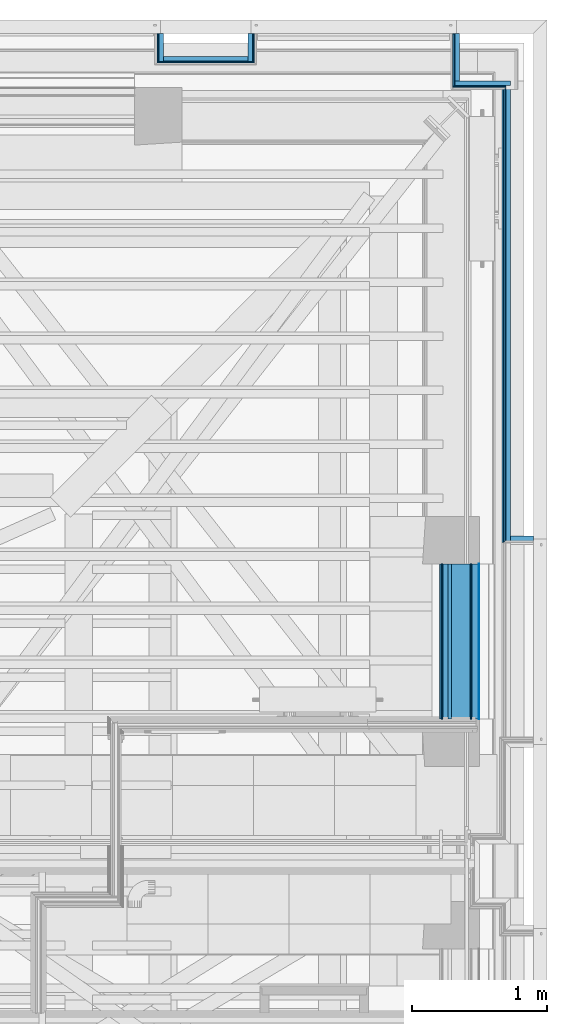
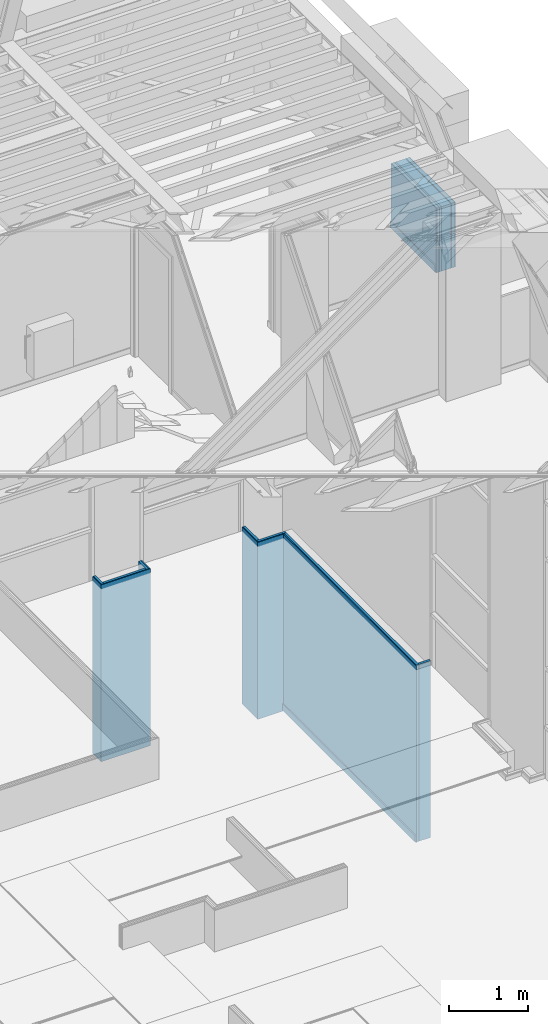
# One storey, part 62 of 183: 22 building element parts, 8 elements without a shape of their own.
"""IFC2X3 building model written with IfcOpenShell, lengths in metres."""

from ifc_helpers import new_model, entity, si_unit, converted_unit, derived_unit, money_unit, direction, frame, frame_2d, origin_with_axes, place, context, subcontext, project, spatial, polyline, rectangle, outline, extrude, material, type_object, element, aggregate, save


model = new_model("IFC2X3")

# Units and contexts
model_context = context("Model", 3, precision=1e-05, world=origin_with_axes(), true_north=direction((0.0, 1.0)))
body_context = subcontext(model_context, "Body", "Model", "MODEL_VIEW", scale=1.0)
ifc_project = project(units=[si_unit("LENGTHUNIT", "METRE"), si_unit("AREAUNIT", "SQUARE_METRE"), si_unit("VOLUMEUNIT", "CUBIC_METRE"), si_unit("ABSORBEDDOSEUNIT", "GRAY"), si_unit("AMOUNTOFSUBSTANCEUNIT", "MOLE"), si_unit("DOSEEQUIVALENTUNIT", "SIEVERT"), si_unit("ELECTRICCAPACITANCEUNIT", "FARAD"), si_unit("ELECTRICCHARGEUNIT", "COULOMB"), si_unit("ELECTRICCONDUCTANCEUNIT", "SIEMENS"), si_unit("ELECTRICCURRENTUNIT", "AMPERE"), si_unit("ELECTRICRESISTANCEUNIT", "OHM"), si_unit("ELECTRICVOLTAGEUNIT", "VOLT"), si_unit("ENERGYUNIT", "JOULE"), si_unit("FORCEUNIT", "NEWTON"), si_unit("FREQUENCYUNIT", "HERTZ"), si_unit("ILLUMINANCEUNIT", "LUX"), si_unit("INDUCTANCEUNIT", "HENRY"), si_unit("LUMINOUSFLUXUNIT", "LUMEN"), si_unit("LUMINOUSINTENSITYUNIT", "CANDELA"), si_unit("MAGNETICFLUXDENSITYUNIT", "TESLA"), si_unit("MAGNETICFLUXUNIT", "WEBER"), si_unit("MASSUNIT", "GRAM"), converted_unit("PLANEANGLEUNIT", "degree", entity("IfcReal", 0.0174532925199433), si_unit("PLANEANGLEUNIT", "RADIAN"), dimensions=[0, 0, 0, 0, 0, 0, 0]), si_unit("POWERUNIT", "WATT"), si_unit("PRESSUREUNIT", "PASCAL"), si_unit("RADIOACTIVITYUNIT", "BECQUEREL"), si_unit("SOLIDANGLEUNIT", "STERADIAN"), si_unit("THERMODYNAMICTEMPERATUREUNIT", "KELVIN"), si_unit("TIMEUNIT", "SECOND"), derived_unit("ACCELERATIONUNIT", [(si_unit("LENGTHUNIT", "METRE"), 1), (si_unit("TIMEUNIT", "SECOND"), -2)]), derived_unit("ANGULARVELOCITYUNIT", [(converted_unit("PLANEANGLEUNIT", "degree", entity("IfcReal", 0.0174532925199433), si_unit("PLANEANGLEUNIT", "RADIAN"), dimensions=[0, 0, 0, 0, 0, 0, 0]), 1), (si_unit("TIMEUNIT", "SECOND"), -1)]), derived_unit("CURVATUREUNIT", [(converted_unit("PLANEANGLEUNIT", "degree", entity("IfcReal", 0.0174532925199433), si_unit("PLANEANGLEUNIT", "RADIAN"), dimensions=[0, 0, 0, 0, 0, 0, 0]), 1), (si_unit("LENGTHUNIT", "METRE"), -1)]), derived_unit("DYNAMICVISCOSITYUNIT", [(si_unit("PRESSUREUNIT", "PASCAL"), 1), (si_unit("TIMEUNIT", "SECOND"), 1)]), derived_unit("HEATFLUXDENSITYUNIT", [(si_unit("POWERUNIT", "WATT"), 1), (si_unit("LENGTHUNIT", "METRE"), -2)]), derived_unit("HEATINGVALUEUNIT", [(si_unit("ENERGYUNIT", "JOULE"), 1), (si_unit("MASSUNIT", "GRAM"), -1)]), derived_unit("INTEGERCOUNTRATEUNIT", [(si_unit("TIMEUNIT", "SECOND"), -1)]), derived_unit("IONCONCENTRATIONUNIT", [(si_unit("MASSUNIT", "GRAM"), 1), (si_unit("VOLUMEUNIT", "CUBIC_METRE"), -1)]), derived_unit("ISOTHERMALMOISTURECAPACITYUNIT", [(si_unit("VOLUMEUNIT", "CUBIC_METRE"), 1), (si_unit("MASSUNIT", "GRAM"), -1)]), derived_unit("KINEMATICVISCOSITYUNIT", [(si_unit("AREAUNIT", "SQUARE_METRE"), 1), (si_unit("TIMEUNIT", "SECOND"), -1)]), derived_unit("LINEARFORCEUNIT", [(si_unit("FORCEUNIT", "NEWTON"), 1), (si_unit("LENGTHUNIT", "METRE"), -1)]), derived_unit("LINEARMOMENTUNIT", [(si_unit("FORCEUNIT", "NEWTON"), 1), (si_unit("LENGTHUNIT", "METRE"), -1)]), derived_unit("LINEARSTIFFNESSUNIT", [(si_unit("FORCEUNIT", "NEWTON"), 1), (si_unit("LENGTHUNIT", "METRE"), -1)]), derived_unit("LINEARVELOCITYUNIT", [(si_unit("LENGTHUNIT", "METRE"), 1), (si_unit("TIMEUNIT", "SECOND"), -1)]), derived_unit("LUMINOUSINTENSITYDISTRIBUTIONUNIT", [(si_unit("LUMINOUSINTENSITYUNIT", "CANDELA"), 1), (si_unit("LUMINOUSFLUXUNIT", "LUMEN"), -1)]), derived_unit("MASSDENSITYUNIT", [(si_unit("MASSUNIT", "GRAM"), 1), (si_unit("VOLUMEUNIT", "CUBIC_METRE"), -1)]), derived_unit("MASSFLOWRATEUNIT", [(si_unit("MASSUNIT", "GRAM"), 1), (si_unit("TIMEUNIT", "SECOND"), -1)]), derived_unit("MASSPERLENGTHUNIT", [(si_unit("MASSUNIT", "GRAM"), 1), (si_unit("LENGTHUNIT", "METRE"), -1)]), derived_unit("MODULUSOFELASTICITYUNIT", [(si_unit("FORCEUNIT", "NEWTON"), 1), (si_unit("AREAUNIT", "SQUARE_METRE"), -1)]), derived_unit("MODULUSOFLINEARSUBGRADEREACTIONUNIT", [(si_unit("FORCEUNIT", "NEWTON"), 1), (si_unit("LENGTHUNIT", "METRE"), -2)]), derived_unit("MODULUSOFROTATIONALSUBGRADEREACTIONUNIT", [(si_unit("FORCEUNIT", "NEWTON"), 1), (si_unit("LENGTHUNIT", "METRE"), 1)]), derived_unit("MODULUSOFSUBGRADEREACTIONUNIT", [(si_unit("FORCEUNIT", "NEWTON"), 1), (si_unit("VOLUMEUNIT", "CUBIC_METRE"), -1)]), derived_unit("MOISTUREDIFFUSIVITYUNIT", [(si_unit("VOLUMEUNIT", "CUBIC_METRE"), 1), (si_unit("TIMEUNIT", "SECOND"), -1)]), derived_unit("MOLECULARWEIGHTUNIT", [(si_unit("MASSUNIT", "GRAM"), 1), (si_unit("AMOUNTOFSUBSTANCEUNIT", "MOLE"), -1)]), derived_unit("PLANARFORCEUNIT", [(si_unit("FORCEUNIT", "NEWTON"), 1), (si_unit("LENGTHUNIT", "METRE"), -2)]), derived_unit("ROTATIONALFREQUENCYUNIT", [(si_unit("TIMEUNIT", "SECOND"), -1)]), derived_unit("ROTATIONALMASSUNIT", [(si_unit("MASSUNIT", "GRAM"), 1), (si_unit("LENGTHUNIT", "METRE"), 2)]), derived_unit("ROTATIONALSTIFFNESSUNIT", [(si_unit("FORCEUNIT", "NEWTON"), 1), (si_unit("LENGTHUNIT", "METRE"), 1), (converted_unit("PLANEANGLEUNIT", "degree", entity("IfcReal", 0.0174532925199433), si_unit("PLANEANGLEUNIT", "RADIAN"), dimensions=[0, 0, 0, 0, 0, 0, 0]), -1)]), derived_unit("SECTIONAREAINTEGRALUNIT", [(si_unit("LENGTHUNIT", "METRE"), 5)]), derived_unit("SECTIONMODULUSUNIT", [(si_unit("LENGTHUNIT", "METRE"), 3)]), derived_unit("SHEARMODULUSUNIT", [(si_unit("FORCEUNIT", "NEWTON"), 1), (si_unit("AREAUNIT", "SQUARE_METRE"), -1)]), derived_unit("SOUNDPOWERUNIT", [(si_unit("ENERGYUNIT", "JOULE"), 1), (si_unit("TIMEUNIT", "SECOND"), -1)]), derived_unit("SPECIFICHEATCAPACITYUNIT", [(si_unit("FORCEUNIT", "NEWTON"), 1), (si_unit("MASSUNIT", "GRAM"), -1), (si_unit("THERMODYNAMICTEMPERATUREUNIT", "KELVIN"), -1)]), derived_unit("TEMPERATUREGRADIENTUNIT", [(si_unit("THERMODYNAMICTEMPERATUREUNIT", "KELVIN"), 1), (si_unit("LENGTHUNIT", "METRE"), -1)]), derived_unit("THERMALADMITTANCEUNIT", [(si_unit("POWERUNIT", "WATT"), 1), (si_unit("AREAUNIT", "SQUARE_METRE"), -1), (si_unit("THERMODYNAMICTEMPERATUREUNIT", "KELVIN"), -1)]), derived_unit("THERMALCONDUCTANCEUNIT", [(si_unit("POWERUNIT", "WATT"), 1), (si_unit("LENGTHUNIT", "METRE"), -1), (si_unit("THERMODYNAMICTEMPERATUREUNIT", "KELVIN"), -1)]), derived_unit("THERMALEXPANSIONCOEFFICIENTUNIT", [(si_unit("THERMODYNAMICTEMPERATUREUNIT", "KELVIN"), -1)]), derived_unit("THERMALRESISTANCEUNIT", [(si_unit("AREAUNIT", "SQUARE_METRE"), 1), (si_unit("POWERUNIT", "WATT"), -1)]), derived_unit("THERMALTRANSMITTANCEUNIT", [(si_unit("POWERUNIT", "WATT"), 1), (si_unit("AREAUNIT", "SQUARE_METRE"), -1), (si_unit("THERMODYNAMICTEMPERATUREUNIT", "KELVIN"), -1)]), derived_unit("TORQUEUNIT", [(si_unit("FORCEUNIT", "NEWTON"), 1), (si_unit("LENGTHUNIT", "METRE"), 1)]), derived_unit("VAPORPERMEABILITYUNIT", [(si_unit("MASSUNIT", "GRAM"), 1), (si_unit("TIMEUNIT", "SECOND"), -1)]), derived_unit("VOLUMETRICFLOWRATEUNIT", [(si_unit("VOLUMEUNIT", "CUBIC_METRE"), 1), (si_unit("TIMEUNIT", "SECOND"), -1)]), derived_unit("WARPINGCONSTANTUNIT", [(si_unit("LENGTHUNIT", "METRE"), 6)]), derived_unit("WARPINGMOMENTUNIT", [(si_unit("FORCEUNIT", "NEWTON"), 1), (si_unit("LENGTHUNIT", "METRE"), 2)]), money_unit("GBP")], contexts=[model_context])

# Site, building, storey
site_placement = place(None, origin_with_axes())
site = spatial("IfcSite", under=ifc_project, at=site_placement, Name="Site", CompositionType="ELEMENT")
building_placement = place(site_placement, origin_with_axes())
building = spatial("IfcBuilding", under=site, at=building_placement, Name="Building01", CompositionType="ELEMENT")
storey_placement = place(building_placement, frame((0.0, 0.0, 5.15), z_axis=(0.0, 0.0, 1.0), x_axis=(1.0, 0.0, 0.0)))
storey = spatial("IfcBuildingStorey", under=building, at=storey_placement, Name="1F", CompositionType="ELEMENT", Elevation=5.15)

# Wall, building element part
wall_type_1 = type_object("IfcWallType", Name="SHE_A-Walls_Type06d_ExternalWallInsulation_48mm", PredefinedType="NOTDEFINED")
wall_1_placement = place(storey_placement, frame((26.71, 11.08018, 0.0), z_axis=(0.0, 0.0, 1.0), x_axis=(1.0, 0.0, 0.0)))
wall_1 = element("IfcWall", 1, at=wall_1_placement, inside=storey, type_object=wall_type_1, Name="6D", ObjectType="SHE_A-Walls_Type06d_ExternalWallInsulation_48mm")
ifc_material_1 = material(Name="A_BSUK_Insulation")
building_element_part_1_placement = place(wall_1_placement, origin_with_axes())
building_element_part_1 = element("IfcBuildingElementPart", 2, at=building_element_part_1_placement, material=ifc_material_1, Name="3", context=body_context, shape_type="SweptSolid", body=[
    extrude(rectangle(XDim=0.036, YDim=0.17, at=frame_2d((0.085, -0.018), x_axis=(0.0, -1.0))), origin_with_axes(), (0.0, 0.0, 1.0), 2.74),
])
aggregate(wall_1, [building_element_part_1])

# Wall, building element parts
wall_2_placement = place(storey_placement, frame((26.71, 11.04418, 0.0), z_axis=(0.0, 0.0, 1.0), x_axis=(0.0, 1.0, 0.0)))
wall_2 = element("IfcWall", 3, at=wall_2_placement, inside=storey, type_object=wall_type_1, Name="6D", ObjectType="SHE_A-Walls_Type06d_ExternalWallInsulation_48mm")
placement_1 = place(wall_2_placement, origin_with_axes())
building_element_part_2 = element("IfcBuildingElementPart", 4, at=placement_1, material=ifc_material_1, Name="1", context=body_context, shape_type="SweptSolid", body=[
    extrude(rectangle(XDim=3.36982, YDim=0.036, at=frame_2d((1.68491, 0.018), x_axis=(-1.0, 0.0))), origin_with_axes(), (0.0, 0.0, 1.0), 2.74),
])
ifc_material_2 = material(Name="A_BSUK_WallInternal_Finishes_Plasterboard")
building_element_part_3 = element("IfcBuildingElementPart", 5, at=placement_1, material=ifc_material_2, Name="2", context=body_context, shape_type="SweptSolid", body=[
    extrude(outline(polyline([(3.35782, 0.048), (-0.012, 0.048), (0.001, 0.035), (3.35782, 0.035), (3.35782, 0.048)])), origin_with_axes(), (0.0, 0.0, 1.0), 2.74),
])
ifc_material_3 = material(Name="A_BSUK_Walls_Timber")
building_element_part_4 = element("IfcBuildingElementPart", 6, at=placement_1, material=ifc_material_3, Name="3", context=body_context, shape_type="SweptSolid", body=[
    extrude(outline(polyline([(3.35782, 0.063), (-0.012, 0.063), (-0.012, 0.048), (3.37282, 0.048), (3.35782, 0.063)])), frame((0.0, 0.0, 0.015), z_axis=(0.0, 0.0, 1.0), x_axis=(1.0, 0.0, 0.0)), (0.0, 0.0, 1.0), 0.1),
])
aggregate(wall_2, [building_element_part_2, building_element_part_3, building_element_part_4])

wall_3_placement = place(storey_placement, frame((26.71, 14.45, 0.0), z_axis=(0.0, 0.0, 1.0), x_axis=(-1.0, 0.0, 0.0)))
wall_3 = element("IfcWall", 7, at=wall_3_placement, inside=storey, type_object=wall_type_1, Name="6D", ObjectType="SHE_A-Walls_Type06d_ExternalWallInsulation_48mm")
placement_2 = place(wall_3_placement, origin_with_axes())
building_element_part_5 = element("IfcBuildingElementPart", 8, at=placement_2, material=ifc_material_1, Name="1", context=body_context, shape_type="SweptSolid", body=[
    extrude(rectangle(XDim=0.413, YDim=0.036, at=frame_2d((0.2065, 0.018), x_axis=(-1.0, 0.0))), origin_with_axes(), (0.0, 0.0, 1.0), 2.74),
])
building_element_part_6 = element("IfcBuildingElementPart", 9, at=placement_2, material=ifc_material_2, Name="2", context=body_context, shape_type="SweptSolid", body=[
    extrude(outline(polyline([(0.425, 0.048), (0.035, 0.048), (0.035, 0.035), (0.412, 0.035), (0.425, 0.048)])), origin_with_axes(), (0.0, 0.0, 1.0), 2.74),
])
aggregate(wall_3, [building_element_part_5, building_element_part_6])

wall_4_placement = place(storey_placement, frame((26.333, 14.45, 0.0), z_axis=(0.0, 0.0, 1.0), x_axis=(0.0, 1.0, 0.0)))
wall_4 = element("IfcWall", 10, at=wall_4_placement, inside=storey, type_object=wall_type_1, Name="6D", ObjectType="SHE_A-Walls_Type06d_ExternalWallInsulation_48mm")
placement_3 = place(wall_4_placement, origin_with_axes())
building_element_part_7 = element("IfcBuildingElementPart", 11, at=placement_3, material=ifc_material_1, Name="1", context=body_context, shape_type="SweptSolid", body=[
    extrude(rectangle(XDim=0.35, YDim=0.036, at=frame_2d((0.175, 0.018), x_axis=(-1.0, 0.0))), origin_with_axes(), (0.0, 0.0, 1.0), 2.74),
])
building_element_part_8 = element("IfcBuildingElementPart", 12, at=placement_3, material=ifc_material_2, Name="2", context=body_context, shape_type="SweptSolid", body=[
    extrude(outline(polyline([(0.35, 0.048), (-0.048, 0.048), (-0.035, 0.035), (0.35, 0.035), (0.35, 0.048)])), origin_with_axes(), (0.0, 0.0, 1.0), 2.74),
])
aggregate(wall_4, [building_element_part_7, building_element_part_8])

wall_5_placement = place(storey_placement, frame((24.767, 14.8, 0.0), z_axis=(0.0, 0.0, 1.0), x_axis=(0.0, -1.0, 0.0)))
wall_5 = element("IfcWall", 13, at=wall_5_placement, inside=storey, type_object=wall_type_1, Name="6D", ObjectType="SHE_A-Walls_Type06d_ExternalWallInsulation_48mm")
placement_4 = place(wall_5_placement, origin_with_axes())
building_element_part_9 = element("IfcBuildingElementPart", 14, at=placement_4, material=ifc_material_1, Name="1", context=body_context, shape_type="SweptSolid", body=[
    extrude(rectangle(XDim=0.206, YDim=0.036, at=frame_2d((0.103, 0.018), x_axis=(-1.0, 0.0))), origin_with_axes(), (0.0, 0.0, 1.0), 2.74),
])
building_element_part_10 = element("IfcBuildingElementPart", 15, at=placement_4, material=ifc_material_2, Name="2", context=body_context, shape_type="SweptSolid", body=[
    extrude(outline(polyline([(0.218, 0.048), (0.0, 0.048), (0.0, 0.035), (0.205, 0.035), (0.218, 0.048)])), origin_with_axes(), (0.0, 0.0, 1.0), 2.74),
])
aggregate(wall_5, [building_element_part_9, building_element_part_10])

wall_6_placement = place(storey_placement, frame((24.767, 14.63, 0.0), z_axis=(0.0, 0.0, 1.0), x_axis=(-1.0, 0.0, 0.0)))
wall_6 = element("IfcWall", 16, at=wall_6_placement, inside=storey, type_object=wall_type_1, Name="6D", ObjectType="SHE_A-Walls_Type06d_ExternalWallInsulation_48mm")
placement_5 = place(wall_6_placement, origin_with_axes())
building_element_part_11 = element("IfcBuildingElementPart", 17, at=placement_5, material=ifc_material_1, Name="1", context=body_context, shape_type="SweptSolid", body=[
    extrude(rectangle(XDim=0.624, YDim=0.036, at=frame_2d((0.312, 0.018), x_axis=(-1.0, 0.0))), origin_with_axes(), (0.0, 0.0, 1.0), 2.74),
])
building_element_part_12 = element("IfcBuildingElementPart", 18, at=placement_5, material=ifc_material_2, Name="2", context=body_context, shape_type="SweptSolid", body=[
    extrude(outline(polyline([(0.672, 0.048), (-0.048, 0.048), (-0.035, 0.035), (0.659, 0.035), (0.672, 0.048)])), origin_with_axes(), (0.0, 0.0, 1.0), 2.74),
])
aggregate(wall_6, [building_element_part_11, building_element_part_12])

wall_7_placement = place(storey_placement, frame((24.143, 14.594, 0.0), z_axis=(0.0, 0.0, 1.0), x_axis=(0.0, 1.0, 0.0)))
wall_7 = element("IfcWall", 19, at=wall_7_placement, inside=storey, type_object=wall_type_1, Name="6D", ObjectType="SHE_A-Walls_Type06d_ExternalWallInsulation_48mm")
placement_6 = place(wall_7_placement, origin_with_axes())
building_element_part_13 = element("IfcBuildingElementPart", 20, at=placement_6, material=ifc_material_1, Name="1", context=body_context, shape_type="SweptSolid", body=[
    extrude(rectangle(XDim=0.036, YDim=0.206, at=frame_2d((0.103, 0.018), x_axis=(0.0, -1.0))), origin_with_axes(), (0.0, 0.0, 1.0), 2.74),
])
building_element_part_14 = element("IfcBuildingElementPart", 21, at=placement_6, material=ifc_material_2, Name="2", context=body_context, shape_type="SweptSolid", body=[
    extrude(outline(polyline([(-0.012, 0.048), (0.001, 0.035), (0.206, 0.035), (0.206, 0.048), (-0.012, 0.048)])), origin_with_axes(), (0.0, 0.0, 1.0), 2.74),
])
aggregate(wall_7, [building_element_part_13, building_element_part_14])

wall_type_2 = type_object("IfcWallType", Name="SHE_A-Walls_Type06e_ExternalWallPenthouse_280mm", PredefinedType="NOTDEFINED")
wall_8_placement = place(storey_placement, frame((26.415061, 10.874915, 9.78), z_axis=(0.0, 0.0, 1.0), x_axis=(0.0, -1.0, 0.0)))
wall_8 = element("IfcWall", 22, at=wall_8_placement, inside=storey, type_object=wall_type_2, Name="6E", ObjectType="SHE_A-Walls_Type06e_ExternalWallPenthouse_280mm")
placement_7 = place(wall_8_placement, origin_with_axes())
building_element_part_15 = element("IfcBuildingElementPart", 23, at=placement_7, material=ifc_material_3, Name="1", context=body_context, shape_type="SweptSolid", body=[
    extrude(rectangle(XDim=1.149951, YDim=0.015, at=frame_2d((0.574976, -0.2225), x_axis=(-1.0, 0.0))), frame((0.0, 0.0, 0.015), z_axis=(0.0, 0.0, 1.0), x_axis=(1.0, 0.0, 0.0)), (0.0, 0.0, 1.0), 0.1),
])
building_element_part_16 = element("IfcBuildingElementPart", 24, at=placement_7, material=ifc_material_2, Name="2", context=body_context, shape_type="SweptSolid", body=[
    extrude(rectangle(XDim=1.149951, YDim=0.01, at=frame_2d((0.574976, -0.21), x_axis=(-1.0, 0.0))), origin_with_axes(), (0.0, 0.0, 1.0), 1.0),
])
building_element_part_17 = element("IfcBuildingElementPart", 25, at=placement_7, material=ifc_material_1, Name="3", context=body_context, shape_type="SweptSolid", body=[
    extrude(rectangle(XDim=1.149951, YDim=0.04, at=frame_2d((0.574976, -0.185), x_axis=(-1.0, 0.0))), origin_with_axes(), (0.0, 0.0, 1.0), 1.0),
])
ifc_material_4 = material(Name="Air Cavity")
building_element_part_18 = element("IfcBuildingElementPart", 26, at=placement_7, material=ifc_material_4, Name="4", context=body_context, shape_type="SweptSolid", body=[
    extrude(rectangle(XDim=1.149951, YDim=0.025, at=frame_2d((0.574976, -0.1525), x_axis=(-1.0, 0.0))), origin_with_axes(), (0.0, 0.0, 1.0), 1.0),
])
building_element_part_19 = element("IfcBuildingElementPart", 27, at=placement_7, material=ifc_material_1, Name="5", context=body_context, shape_type="SweptSolid", body=[
    extrude(rectangle(XDim=1.149951, YDim=0.14, at=frame_2d((0.574976, -0.07), x_axis=(-1.0, 0.0))), origin_with_axes(), (0.0, 0.0, 1.0), 1.0),
])
building_element_part_20 = element("IfcBuildingElementPart", 28, at=placement_7, material=ifc_material_3, Name="6", context=body_context, shape_type="SweptSolid", body=[
    extrude(rectangle(XDim=1.149951, YDim=0.01, at=frame_2d((0.574976, 0.005), x_axis=(-1.0, 0.0))), origin_with_axes(), (0.0, 0.0, 1.0), 1.0),
])
building_element_part_21 = element("IfcBuildingElementPart", 29, at=placement_7, material=ifc_material_4, Name="7", context=body_context, shape_type="SweptSolid", body=[
    extrude(rectangle(XDim=1.149951, YDim=0.05, at=frame_2d((0.574976, 0.035), x_axis=(-1.0, 0.0))), origin_with_axes(), (0.0, 0.0, 1.0), 1.0),
])
ifc_material_5 = material(Name="A_BSUK_WallInternal_Finishes_Metal")
building_element_part_22 = element("IfcBuildingElementPart", 30, at=placement_7, material=ifc_material_5, Name="8", context=body_context, shape_type="SweptSolid", body=[
    extrude(rectangle(XDim=1.149951, YDim=0.005, at=frame_2d((0.574976, 0.0625), x_axis=(-1.0, 0.0))), origin_with_axes(), (0.0, 0.0, 1.0), 1.0),
])
aggregate(wall_8, [building_element_part_15, building_element_part_16, building_element_part_17, building_element_part_18, building_element_part_19, building_element_part_20, building_element_part_21, building_element_part_22])

save(model, "model.ifc")
